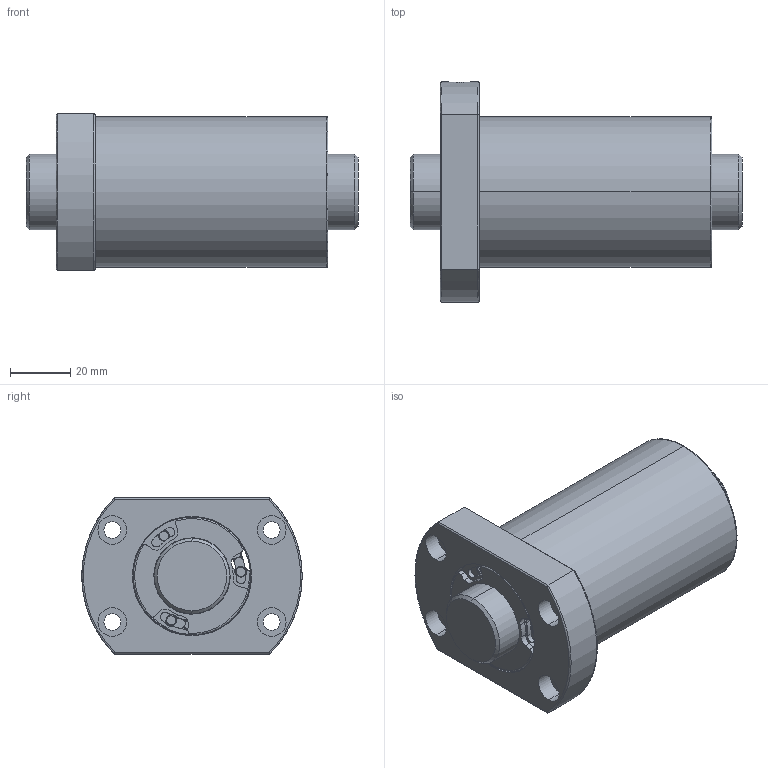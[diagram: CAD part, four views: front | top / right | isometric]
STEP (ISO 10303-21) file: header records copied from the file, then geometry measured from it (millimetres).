
FILE_DESCRIPTION (( 'STEP AP203' ), '1' );
FILE_NAME ('SFVSR02525B1D-C.STEP', '2020-06-17T05:11:51', ( '' ), ( '' ), 'SwSTEP 2.0', 'SolidWorks 2013', '' );
FILE_SCHEMA (( 'CONFIG_CONTROL_DESIGN' ));
Length unit declared in the file: millimetre
Products named in the file (1): SFVSR02525B1D-C
Bounding box: 110 x 73 x 52 mm (x, y, z)
Volume: 195089.6 mm3; surface area: 41849.8 mm2
Topology: 2 solids, 2 shells, 246 faces, 600 edges, 382 vertices
Faces by surface type: cylinder 136, plane 80, cone 16, bspline 14
Entity records: 8072 total; most frequent: CARTESIAN_POINT 2002, DIRECTION 1378, ORIENTED_EDGE 1200, EDGE_CURVE 600, AXIS2_PLACEMENT_3D 585, VERTEX_POINT 382, CIRCLE 352, EDGE_LOOP 284
